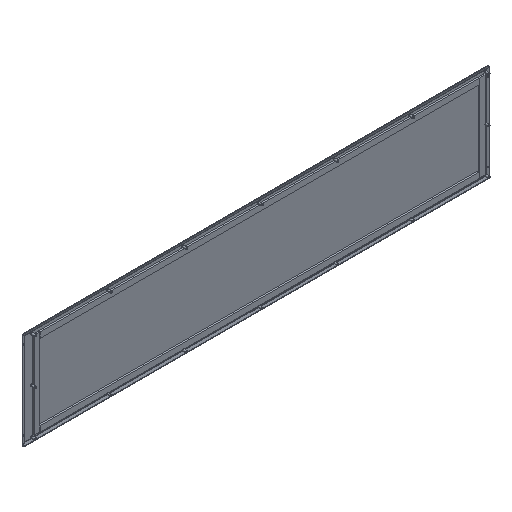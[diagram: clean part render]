
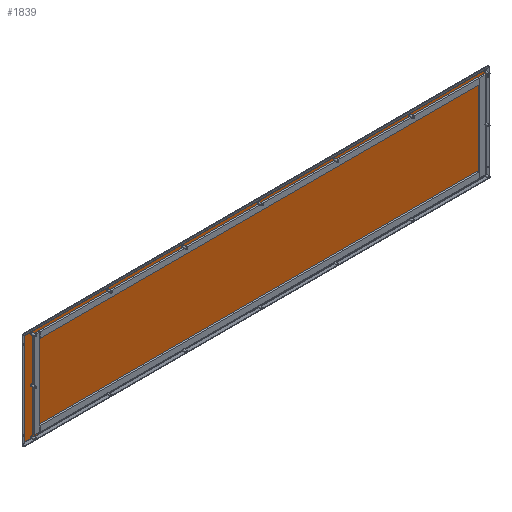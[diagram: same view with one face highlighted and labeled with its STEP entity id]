
A CAD part, isometric view. The second image highlights one B-rep face of the part: STEP entity #1839.
In plain terms, the highlighted planar face has unit normal (0, -1, 0).
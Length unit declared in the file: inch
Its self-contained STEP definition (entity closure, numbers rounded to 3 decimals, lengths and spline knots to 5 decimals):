
#58=CARTESIAN_POINT('',(41.22995,0.0235,16.97995));
#116=CARTESIAN_POINT('',(41.22995,0.0235,0.52005));
#184=CARTESIAN_POINT('',(-41.22995,0.0235,0.52005));
#225=CARTESIAN_POINT('',(-41.22995,0.0235,16.97995));
#330=DIRECTION('',(-1.,0.,0.));
#331=VECTOR('',#330,82.45989);
#332=CARTESIAN_POINT('',(41.22995,0.0235,16.97995));
#333=LINE('',#332,#331);
#354=DIRECTION('',(0.,0.,1.));
#355=VECTOR('',#354,16.45989);
#356=CARTESIAN_POINT('',(41.22995,0.0235,0.52005));
#357=LINE('',#356,#355);
#663=DIRECTION('',(-1.,0.,0.));
#664=VECTOR('',#663,82.45989);
#665=CARTESIAN_POINT('',(41.22995,0.0235,0.52005));
#666=LINE('',#665,#664);
#806=DIRECTION('',(0.,0.,1.));
#807=VECTOR('',#806,16.45989);
#808=CARTESIAN_POINT('',(-41.22995,0.0235,0.52005));
#809=LINE('',#808,#807);
#1265=VERTEX_POINT('',#225);
#1266=VERTEX_POINT('',#184);
#1269=VERTEX_POINT('',#58);
#1272=VERTEX_POINT('',#116);
#1825=CARTESIAN_POINT('',(41.75,0.0235,0.));
#1826=DIRECTION('',(0.,1.,0.));
#1827=DIRECTION('',(-1.,0.,0.));
#1828=AXIS2_PLACEMENT_3D('',#1825,#1826,#1827);
#1829=PLANE('',#1828);
#1830=ORIENTED_EDGE('',*,*,#1817,.F.);
#1832=ORIENTED_EDGE('',*,*,#1831,.F.);
#1834=ORIENTED_EDGE('',*,*,#1833,.T.);
#1836=ORIENTED_EDGE('',*,*,#1835,.T.);
#1837=EDGE_LOOP('',(#1830,#1832,#1834,#1836));
#1838=FACE_OUTER_BOUND('',#1837,.F.);
#1817=EDGE_CURVE('',#1269,#1265,#333,.T.);
#1831=EDGE_CURVE('',#1272,#1269,#357,.T.);
#1833=EDGE_CURVE('',#1272,#1266,#666,.T.);
#1835=EDGE_CURVE('',#1266,#1265,#809,.T.);
#1839=ADVANCED_FACE('',(#1838),#1829,.F.);
